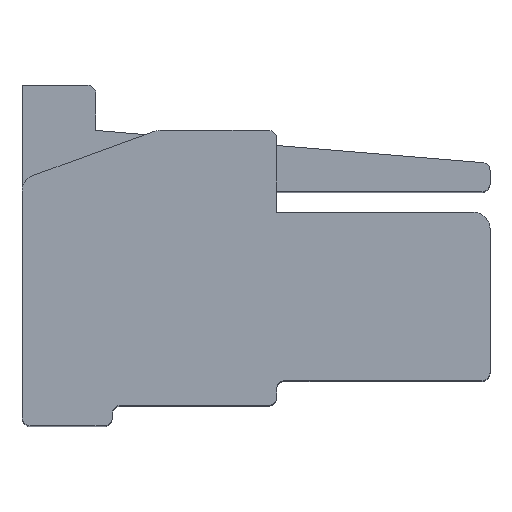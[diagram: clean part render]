
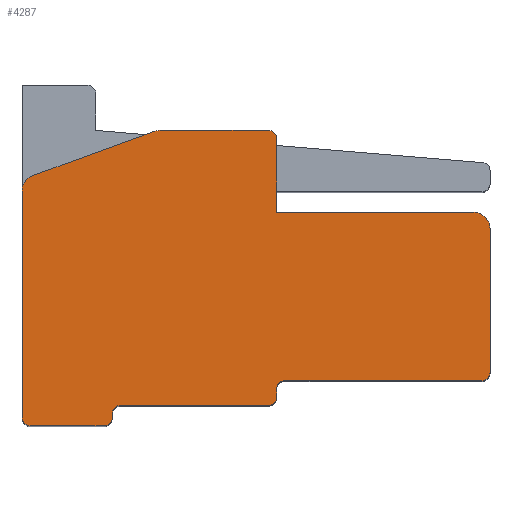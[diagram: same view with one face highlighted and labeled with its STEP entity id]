
A CAD part, top view. The second image highlights one B-rep face of the part: STEP entity #4287.
In plain terms, the highlighted planar face has unit normal (0, 0, 1).
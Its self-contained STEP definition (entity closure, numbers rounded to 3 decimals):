
#89=PLANE('',#4598);
#258=FACE_OUTER_BOUND('',#479,.T.);
#479=EDGE_LOOP('',(#3162,#3163,#3164,#3165,#3166,#3167,#3168,#3169,#3170,
#3171,#3172,#3173,#3174,#3175,#3176,#3177,#3178,#3179,#3180,#3181,#3182));
#743=LINE('',#6405,#1250);
#802=LINE('',#6557,#1309);
#805=LINE('',#6563,#1312);
#806=LINE('',#6567,#1313);
#807=LINE('',#6572,#1314);
#808=LINE('',#6576,#1315);
#809=LINE('',#6580,#1316);
#810=LINE('',#6584,#1317);
#811=LINE('',#6588,#1318);
#812=LINE('',#6592,#1319);
#813=LINE('',#6595,#1320);
#1250=VECTOR('',#5136,10.);
#1309=VECTOR('',#5265,10.);
#1312=VECTOR('',#5270,10.);
#1313=VECTOR('',#5273,10.);
#1314=VECTOR('',#5278,10.);
#1315=VECTOR('',#5281,10.);
#1316=VECTOR('',#5284,10.);
#1317=VECTOR('',#5287,10.);
#1318=VECTOR('',#5290,10.);
#1319=VECTOR('',#5293,10.);
#1320=VECTOR('',#5296,10.);
#1699=CIRCLE('',#4596,0.1);
#1700=CIRCLE('',#4599,0.2);
#1701=CIRCLE('',#4600,0.2);
#1702=CIRCLE('',#4601,0.1);
#1703=CIRCLE('',#4602,0.1);
#1704=CIRCLE('',#4603,0.1);
#1705=CIRCLE('',#4604,0.1);
#1706=CIRCLE('',#4605,0.1);
#1707=CIRCLE('',#4606,0.1);
#1708=CIRCLE('',#4607,0.2);
#1885=VERTEX_POINT('',#6401);
#1887=VERTEX_POINT('',#6404);
#1943=VERTEX_POINT('',#6550);
#1944=VERTEX_POINT('',#6552);
#1945=VERTEX_POINT('',#6556);
#1947=VERTEX_POINT('',#6562);
#1948=VERTEX_POINT('',#6564);
#1949=VERTEX_POINT('',#6566);
#1950=VERTEX_POINT('',#6569);
#1951=VERTEX_POINT('',#6571);
#1952=VERTEX_POINT('',#6573);
#1953=VERTEX_POINT('',#6575);
#1954=VERTEX_POINT('',#6577);
#1955=VERTEX_POINT('',#6579);
#1956=VERTEX_POINT('',#6581);
#1957=VERTEX_POINT('',#6583);
#1958=VERTEX_POINT('',#6585);
#1959=VERTEX_POINT('',#6587);
#1960=VERTEX_POINT('',#6589);
#1961=VERTEX_POINT('',#6591);
#1962=VERTEX_POINT('',#6593);
#2347=EDGE_CURVE('',#1887,#1885,#743,.T.);
#2422=EDGE_CURVE('',#1943,#1944,#1699,.T.);
#2424=EDGE_CURVE('',#1945,#1944,#802,.T.);
#2427=EDGE_CURVE('',#1943,#1947,#805,.T.);
#2428=EDGE_CURVE('',#1948,#1947,#1700,.T.);
#2429=EDGE_CURVE('',#1948,#1949,#806,.T.);
#2430=EDGE_CURVE('',#1887,#1949,#1701,.T.);
#2431=EDGE_CURVE('',#1950,#1885,#1702,.T.);
#2432=EDGE_CURVE('',#1950,#1951,#807,.T.);
#2433=EDGE_CURVE('',#1952,#1951,#1703,.T.);
#2434=EDGE_CURVE('',#1952,#1953,#808,.T.);
#2435=EDGE_CURVE('',#1954,#1953,#1704,.T.);
#2436=EDGE_CURVE('',#1954,#1955,#809,.T.);
#2437=EDGE_CURVE('',#1956,#1955,#1705,.T.);
#2438=EDGE_CURVE('',#1956,#1957,#810,.T.);
#2439=EDGE_CURVE('',#1958,#1957,#1706,.T.);
#2440=EDGE_CURVE('',#1958,#1959,#811,.T.);
#2441=EDGE_CURVE('',#1960,#1959,#1707,.T.);
#2442=EDGE_CURVE('',#1960,#1961,#812,.T.);
#2443=EDGE_CURVE('',#1962,#1961,#1708,.T.);
#2444=EDGE_CURVE('',#1962,#1945,#813,.T.);
#3162=ORIENTED_EDGE('',*,*,#2422,.F.);
#3163=ORIENTED_EDGE('',*,*,#2427,.T.);
#3164=ORIENTED_EDGE('',*,*,#2428,.F.);
#3165=ORIENTED_EDGE('',*,*,#2429,.T.);
#3166=ORIENTED_EDGE('',*,*,#2430,.F.);
#3167=ORIENTED_EDGE('',*,*,#2347,.T.);
#3168=ORIENTED_EDGE('',*,*,#2431,.F.);
#3169=ORIENTED_EDGE('',*,*,#2432,.T.);
#3170=ORIENTED_EDGE('',*,*,#2433,.F.);
#3171=ORIENTED_EDGE('',*,*,#2434,.T.);
#3172=ORIENTED_EDGE('',*,*,#2435,.F.);
#3173=ORIENTED_EDGE('',*,*,#2436,.T.);
#3174=ORIENTED_EDGE('',*,*,#2437,.F.);
#3175=ORIENTED_EDGE('',*,*,#2438,.T.);
#3176=ORIENTED_EDGE('',*,*,#2439,.F.);
#3177=ORIENTED_EDGE('',*,*,#2440,.T.);
#3178=ORIENTED_EDGE('',*,*,#2441,.F.);
#3179=ORIENTED_EDGE('',*,*,#2442,.T.);
#3180=ORIENTED_EDGE('',*,*,#2443,.F.);
#3181=ORIENTED_EDGE('',*,*,#2444,.T.);
#3182=ORIENTED_EDGE('',*,*,#2424,.T.);
#4287=ADVANCED_FACE('',(#258),#89,.T.);
#4596=AXIS2_PLACEMENT_3D('',#6553,#5260,#5261);
#4598=AXIS2_PLACEMENT_3D('',#6561,#5268,#5269);
#4599=AXIS2_PLACEMENT_3D('',#6565,#5271,#5272);
#4600=AXIS2_PLACEMENT_3D('',#6568,#5274,#5275);
#4601=AXIS2_PLACEMENT_3D('',#6570,#5276,#5277);
#4602=AXIS2_PLACEMENT_3D('',#6574,#5279,#5280);
#4603=AXIS2_PLACEMENT_3D('',#6578,#5282,#5283);
#4604=AXIS2_PLACEMENT_3D('',#6582,#5285,#5286);
#4605=AXIS2_PLACEMENT_3D('',#6586,#5288,#5289);
#4606=AXIS2_PLACEMENT_3D('',#6590,#5291,#5292);
#4607=AXIS2_PLACEMENT_3D('',#6594,#5294,#5295);
#5136=DIRECTION('',(0.,-1.,0.));
#5260=DIRECTION('center_axis',(0.,0.,-1.));
#5261=DIRECTION('ref_axis',(0.707,0.707,0.));
#5265=DIRECTION('',(0.,1.,0.));
#5268=DIRECTION('center_axis',(0.,0.,1.));
#5269=DIRECTION('ref_axis',(1.,0.,0.));
#5270=DIRECTION('',(-1.,0.,0.));
#5271=DIRECTION('center_axis',(0.,0.,-1.));
#5272=DIRECTION('ref_axis',(-0.174,0.985,0.));
#5273=DIRECTION('',(-0.94,-0.342,0.));
#5274=DIRECTION('center_axis',(0.,0.,-1.));
#5275=DIRECTION('ref_axis',(-0.819,0.574,0.));
#5276=DIRECTION('center_axis',(0.,0.,-1.));
#5277=DIRECTION('ref_axis',(-0.707,-0.707,0.));
#5278=DIRECTION('',(1.,0.,0.));
#5279=DIRECTION('center_axis',(0.,0.,-1.));
#5280=DIRECTION('ref_axis',(0.707,-0.707,0.));
#5281=DIRECTION('',(0.,1.,0.));
#5282=DIRECTION('center_axis',(0.,0.,1.));
#5283=DIRECTION('ref_axis',(-0.707,0.707,0.));
#5284=DIRECTION('',(1.,0.,0.));
#5285=DIRECTION('center_axis',(0.,0.,-1.));
#5286=DIRECTION('ref_axis',(0.707,-0.707,0.));
#5287=DIRECTION('',(0.,1.,0.));
#5288=DIRECTION('center_axis',(0.,0.,1.));
#5289=DIRECTION('ref_axis',(-0.707,0.707,0.));
#5290=DIRECTION('',(1.,0.,0.));
#5291=DIRECTION('center_axis',(0.,0.,-1.));
#5292=DIRECTION('ref_axis',(0.707,-0.707,0.));
#5293=DIRECTION('',(0.,1.,0.));
#5294=DIRECTION('center_axis',(0.,0.,-1.));
#5295=DIRECTION('ref_axis',(0.707,0.707,0.));
#5296=DIRECTION('',(-1.,0.,0.));
#6401=CARTESIAN_POINT('',(0.,0.1,3.125));
#6404=CARTESIAN_POINT('',(0.,2.86,3.125));
#6405=CARTESIAN_POINT('',(0.,0.,3.125));
#6550=CARTESIAN_POINT('',(3.,3.6,3.125));
#6552=CARTESIAN_POINT('',(3.1,3.5,3.125));
#6553=CARTESIAN_POINT('Origin',(3.,3.5,3.125));
#6556=CARTESIAN_POINT('',(3.1,2.6,3.125));
#6557=CARTESIAN_POINT('',(3.1,2.338,3.125));
#6561=CARTESIAN_POINT('Origin',(2.85,2.075,3.125));
#6562=CARTESIAN_POINT('',(1.685,3.6,3.125));
#6563=CARTESIAN_POINT('',(2.975,3.6,3.125));
#6564=CARTESIAN_POINT('',(1.617,3.588,3.125));
#6565=CARTESIAN_POINT('Origin',(1.685,3.4,3.125));
#6566=CARTESIAN_POINT('',(0.132,3.048,3.125));
#6567=CARTESIAN_POINT('',(1.935,3.704,3.125));
#6568=CARTESIAN_POINT('Origin',(0.2,2.86,3.125));
#6569=CARTESIAN_POINT('',(0.1,0.,3.125));
#6570=CARTESIAN_POINT('Origin',(0.1,0.1,3.125));
#6571=CARTESIAN_POINT('',(1.,0.,3.125));
#6572=CARTESIAN_POINT('',(5.7,0.,3.125));
#6573=CARTESIAN_POINT('',(1.1,0.1,3.125));
#6574=CARTESIAN_POINT('Origin',(1.,0.1,3.125));
#6575=CARTESIAN_POINT('',(1.1,0.15,3.125));
#6576=CARTESIAN_POINT('',(1.1,1.038,3.125));
#6577=CARTESIAN_POINT('',(1.2,0.25,3.125));
#6578=CARTESIAN_POINT('Origin',(1.2,0.15,3.125));
#6579=CARTESIAN_POINT('',(3.,0.25,3.125));
#6580=CARTESIAN_POINT('',(1.975,0.25,3.125));
#6581=CARTESIAN_POINT('',(3.1,0.35,3.125));
#6582=CARTESIAN_POINT('Origin',(3.,0.35,3.125));
#6583=CARTESIAN_POINT('',(3.1,0.45,3.125));
#6584=CARTESIAN_POINT('',(3.1,1.163,3.125));
#6585=CARTESIAN_POINT('',(3.2,0.55,3.125));
#6586=CARTESIAN_POINT('Origin',(3.2,0.45,3.125));
#6587=CARTESIAN_POINT('',(5.6,0.55,3.125));
#6588=CARTESIAN_POINT('',(2.975,0.55,3.125));
#6589=CARTESIAN_POINT('',(5.7,0.65,3.125));
#6590=CARTESIAN_POINT('Origin',(5.6,0.65,3.125));
#6591=CARTESIAN_POINT('',(5.7,2.4,3.125));
#6592=CARTESIAN_POINT('',(5.7,4.15,3.125));
#6593=CARTESIAN_POINT('',(5.5,2.6,3.125));
#6594=CARTESIAN_POINT('Origin',(5.5,2.4,3.125));
#6595=CARTESIAN_POINT('',(4.275,2.6,3.125));
